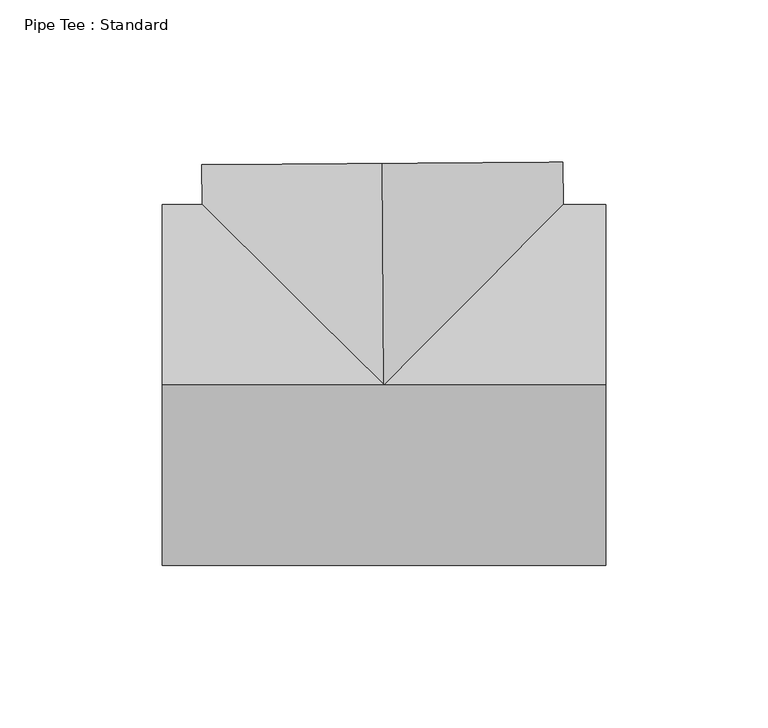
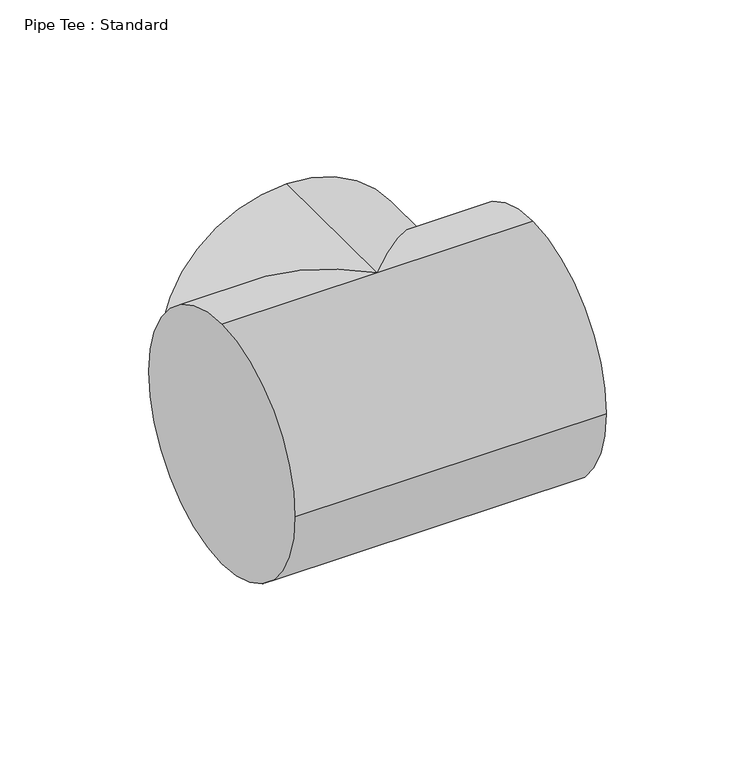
"""IFC4 building model written with IfcOpenShell, lengths in millimetres: pipe fitting geometry, Pipe Tee : Standard."""

from ifc_helpers import new_model, si_unit, frame, origin, place, context, project, spatial, circle_curve, ellipse_curve, source, transform, mapped, element, save
from ifc_brep_helpers import plane_surface, cylinder_surface, advanced_brep


def pipe_tee_standard_6d2680c1(model_context):
    return source(origin(), model_context, "Body", "AdvancedBrep", [
        advanced_brep(
        [(-68.2625, 0.0, 55.5625), (-68.2625, 55.5625, 0.0), (-68.2625, 0.0, -55.5625), (-68.2625, -55.5625, 0.0), (68.2625, 0.0, 55.5625), (68.2625, -55.5625, 0.0), (68.2625, 0.0, -55.5625), (68.2625, 55.5625, 0.0), (0.0, 0.0, 55.5625), (0.0, 0.0, -55.5625), (55.1629725, 55.5625, 0.0), (-55.9649211, 55.5625, 0.0), (-0.4926127, 68.2607225, 55.5625), (55.0684405, 68.6616864, 0.0), (-0.4926127, 68.2607225, -55.5625), (-56.0536659, 67.8597587, 0.0)],
        [
            (0, 1, circle_curve(frame((-68.2625, 0.0, 0.0), z_axis=(-1.0, 0.0, 0.0), x_axis=(0.0, -1.0, 0.0)), 55.5625)),
            (1, 2, circle_curve(frame((-68.2625, 0.0, 0.0), z_axis=(-1.0, 0.0, 0.0), x_axis=(0.0, -1.0, 0.0)), 55.5625)),
            (2, 3, circle_curve(frame((-68.2625, 0.0, 0.0), z_axis=(-1.0, 0.0, 0.0), x_axis=(0.0, -1.0, 0.0)), 55.5625)),
            (3, 0, circle_curve(frame((-68.2625, 0.0, 0.0), z_axis=(-1.0, 0.0, 0.0), x_axis=(0.0, -1.0, 0.0)), 55.5625)),
            (4, 5, circle_curve(frame((68.2625, 0.0, 0.0), z_axis=(1.0, 0.0, 0.0), x_axis=(0.0, -1.0, 0.0)), 55.5625)),
            (5, 6, circle_curve(frame((68.2625, 0.0, 0.0), z_axis=(1.0, 0.0, 0.0), x_axis=(0.0, -1.0, 0.0)), 55.5625)),
            (6, 7, circle_curve(frame((68.2625, 0.0, 0.0), z_axis=(1.0, 0.0, 0.0), x_axis=(0.0, -1.0, 0.0)), 55.5625)),
            (7, 4, circle_curve(frame((68.2625, 0.0, 0.0), z_axis=(1.0, 0.0, 0.0), x_axis=(0.0, -1.0, 0.0)), 55.5625)),
            (3, 5),
            (4, 8),
            (8, 0),
            (2, 9),
            (9, 6),
            (9, 10, ellipse_curve(frame((0.0, 0.0, 0.0), z_axis=(0.7096535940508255, -0.7045507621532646, 0.0), x_axis=(-0.7045507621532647, -0.7096535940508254, 0.0)), 78.2952422, 55.5625)),
            (10, 7),
            (1, 11),
            (11, 9, ellipse_curve(frame((0.0, 0.0, 0.0), z_axis=(-0.7045507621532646, -0.7096535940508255, 0.0), x_axis=(-0.7096535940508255, 0.7045507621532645, 0.0)), 78.8623091, 55.5625)),
            (8, 11, ellipse_curve(frame((0.0, 0.0, 0.0), z_axis=(-0.7045507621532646, -0.7096535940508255, 0.0), x_axis=(-0.7096535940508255, 0.7045507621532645, 0.0)), 78.8623091, 55.5625)),
            (10, 8, ellipse_curve(frame((0.0, 0.0, 0.0), z_axis=(0.7096535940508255, -0.7045507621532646, 0.0), x_axis=(-0.7045507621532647, -0.7096535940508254, 0.0)), 78.2952422, 55.5625)),
            (12, 13, circle_curve(frame((-0.4926127, 68.2607225, 0.0), z_axis=(-0.007216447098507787, 0.9999739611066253, 0.0), x_axis=(0.9999739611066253, 0.007216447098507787, 0.0)), 55.5625)),
            (13, 14, circle_curve(frame((-0.4926127, 68.2607225, 0.0), z_axis=(-0.007216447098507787, 0.9999739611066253, 0.0), x_axis=(0.9999739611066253, 0.007216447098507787, 0.0)), 55.5625)),
            (14, 15, circle_curve(frame((-0.4926127, 68.2607225, 0.0), z_axis=(-0.007216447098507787, 0.9999739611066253, 0.0), x_axis=(0.9999739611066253, 0.007216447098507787, 0.0)), 55.5625)),
            (15, 12, circle_curve(frame((-0.4926127, 68.2607225, 0.0), z_axis=(-0.007216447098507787, 0.9999739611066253, 0.0), x_axis=(0.9999739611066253, 0.007216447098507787, 0.0)), 55.5625)),
            (12, 8),
            (10, 13),
            (9, 14),
            (11, 15),
        ],
        [
            plane_surface(frame((-68.2625, 0.0, 0.0), z_axis=(-1.0, 0.0, 0.0), x_axis=(0.0, 0.0, 1.0))),
            plane_surface(frame((68.2625, 0.0, 0.0), z_axis=(1.0, 0.0, 0.0), x_axis=(0.0, 0.0, 1.0))),
            cylinder_surface(frame((-68.2625, 0.0, 0.0), z_axis=(-1.0, 0.0, 0.0), x_axis=(0.0, -1.0, 0.0)), 55.5625),
            plane_surface(frame((-0.4926127, 68.2607225, 0.0), z_axis=(-0.007216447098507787, 0.9999739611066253, 0.0), x_axis=(0.0, 0.0, 1.0))),
            cylinder_surface(frame((0.0, 0.0, 0.0), z_axis=(0.007216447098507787, -0.9999739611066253, 0.0), x_axis=(0.9999739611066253, 0.007216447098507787, 0.0)), 55.5625),
        ],
        [
            (0, [[1, 2, 3, 4]]),
            (1, [[5, 6, 7, 8]]),
            (2, [[9, -5, 10, 11, -4]]),
            (2, [[12, 13, -6, -9, -3]]),
            (2, [[-13, 14, 15, -7]]),
            (2, [[16, 17, -12, -2]]),
            (2, [[-11, 18, -16, -1]]),
            (2, [[-15, 19, -10, -8]]),
            (3, [[20, 21, 22, 23]]),
            (4, [[24, -19, 25, -20]]),
            (4, [[-25, -14, 26, -21]]),
            (4, [[-26, -17, 27, -22]]),
            (4, [[-27, -18, -24, -23]]),
        ],
    ),
        advanced_brep(
        [(-68.2625, 0.0, 55.5625), (-68.2625, 55.5625, 0.0), (-68.2625, 0.0, -55.5625), (-68.2625, -55.5625, 0.0), (68.2625, 0.0, 55.5625), (68.2625, -55.5625, 0.0), (68.2625, 0.0, -55.5625), (68.2625, 55.5625, 0.0), (0.0, 0.0, 55.5625), (0.0, 0.0, -55.5625), (55.1629725, 55.5625, 0.0), (-55.9649211, 55.5625, 0.0), (-0.4926127, 68.2607225, 55.5625), (55.0684405, 68.6616864, 0.0), (-0.4926127, 68.2607225, -55.5625), (-56.0536659, 67.8597587, 0.0)],
        [
            (0, 1, circle_curve(frame((-68.2625, 0.0, 0.0), z_axis=(-1.0, 0.0, 0.0), x_axis=(0.0, -1.0, 0.0)), 55.5625)),
            (1, 2, circle_curve(frame((-68.2625, 0.0, 0.0), z_axis=(-1.0, 0.0, 0.0), x_axis=(0.0, -1.0, 0.0)), 55.5625)),
            (2, 3, circle_curve(frame((-68.2625, 0.0, 0.0), z_axis=(-1.0, 0.0, 0.0), x_axis=(0.0, -1.0, 0.0)), 55.5625)),
            (3, 0, circle_curve(frame((-68.2625, 0.0, 0.0), z_axis=(-1.0, 0.0, 0.0), x_axis=(0.0, -1.0, 0.0)), 55.5625)),
            (4, 5, circle_curve(frame((68.2625, 0.0, 0.0), z_axis=(1.0, 0.0, 0.0), x_axis=(0.0, -1.0, 0.0)), 55.5625)),
            (5, 6, circle_curve(frame((68.2625, 0.0, 0.0), z_axis=(1.0, 0.0, 0.0), x_axis=(0.0, -1.0, 0.0)), 55.5625)),
            (6, 7, circle_curve(frame((68.2625, 0.0, 0.0), z_axis=(1.0, 0.0, 0.0), x_axis=(0.0, -1.0, 0.0)), 55.5625)),
            (7, 4, circle_curve(frame((68.2625, 0.0, 0.0), z_axis=(1.0, 0.0, 0.0), x_axis=(0.0, -1.0, 0.0)), 55.5625)),
            (3, 5),
            (4, 8),
            (8, 0),
            (2, 9),
            (9, 6),
            (9, 10, ellipse_curve(frame((0.0, 0.0, 0.0), z_axis=(0.7096535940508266, -0.7045507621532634, 0.0), x_axis=(-0.7045507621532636, -0.7096535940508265, 0.0)), 78.2952422, 55.5625)),
            (10, 7),
            (1, 11),
            (11, 9, ellipse_curve(frame((0.0, 0.0, 0.0), z_axis=(-0.7045507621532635, -0.7096535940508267, 0.0), x_axis=(-0.7096535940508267, 0.7045507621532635, 0.0)), 78.8623091, 55.5625)),
            (8, 11, ellipse_curve(frame((0.0, 0.0, 0.0), z_axis=(-0.7045507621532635, -0.7096535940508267, 0.0), x_axis=(-0.7096535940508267, 0.7045507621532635, 0.0)), 78.8623091, 55.5625)),
            (10, 8, ellipse_curve(frame((0.0, 0.0, 0.0), z_axis=(0.7096535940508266, -0.7045507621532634, 0.0), x_axis=(-0.7045507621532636, -0.7096535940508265, 0.0)), 78.2952422, 55.5625)),
            (12, 13, circle_curve(frame((-0.4926127, 68.2607225, 0.0), z_axis=(-0.007216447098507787, 0.9999739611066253, 0.0), x_axis=(0.9999739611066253, 0.007216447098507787, 0.0)), 55.5625)),
            (13, 14, circle_curve(frame((-0.4926127, 68.2607225, 0.0), z_axis=(-0.007216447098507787, 0.9999739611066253, 0.0), x_axis=(0.9999739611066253, 0.007216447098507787, 0.0)), 55.5625)),
            (14, 15, circle_curve(frame((-0.4926127, 68.2607225, 0.0), z_axis=(-0.007216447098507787, 0.9999739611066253, 0.0), x_axis=(0.9999739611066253, 0.007216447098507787, 0.0)), 55.5625)),
            (15, 12, circle_curve(frame((-0.4926127, 68.2607225, 0.0), z_axis=(-0.007216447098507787, 0.9999739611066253, 0.0), x_axis=(0.9999739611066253, 0.007216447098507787, 0.0)), 55.5625)),
            (12, 8),
            (10, 13),
            (9, 14),
            (11, 15),
        ],
        [
            plane_surface(frame((-68.2625, 0.0, 0.0), z_axis=(-1.0, 0.0, 0.0), x_axis=(0.0, 0.0, 1.0))),
            plane_surface(frame((68.2625, 0.0, 0.0), z_axis=(1.0, 0.0, 0.0), x_axis=(0.0, 0.0, 1.0))),
            cylinder_surface(frame((-68.2625, 0.0, 0.0), z_axis=(-1.0, 0.0, 0.0), x_axis=(0.0, -1.0, 0.0)), 55.5625),
            plane_surface(frame((-0.4926127, 68.2607225, 0.0), z_axis=(-0.007216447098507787, 0.9999739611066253, 0.0), x_axis=(0.0, 0.0, 1.0))),
            cylinder_surface(frame((0.0, 0.0, 0.0), z_axis=(0.007216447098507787, -0.9999739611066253, 0.0), x_axis=(0.9999739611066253, 0.007216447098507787, 0.0)), 55.5625),
        ],
        [
            (0, [[1, 2, 3, 4]]),
            (1, [[5, 6, 7, 8]]),
            (2, [[9, -5, 10, 11, -4]]),
            (2, [[12, 13, -6, -9, -3]]),
            (2, [[-13, 14, 15, -7]]),
            (2, [[16, 17, -12, -2]]),
            (2, [[-11, 18, -16, -1]]),
            (2, [[-15, 19, -10, -8]]),
            (3, [[20, 21, 22, 23]]),
            (4, [[24, -19, 25, -20]]),
            (4, [[-25, -14, 26, -21]]),
            (4, [[-26, -17, 27, -22]]),
            (4, [[-27, -18, -24, -23]]),
        ],
    ),
    ])


if __name__ == "__main__":
    model = new_model("IFC4")
    model_context = context("Model", 3, world=origin())
    ifc_project = project(units=[si_unit("LENGTHUNIT", "METRE", prefix="MILLI")], contexts=[model_context])
    site = spatial("IfcSite", under=ifc_project)
    building = spatial("IfcBuilding", under=site)
    placement = place(None, origin())
    pipe_tee_standard_shape = pipe_tee_standard_6d2680c1(model_context)
    element("IfcPipeFitting", 1, ObjectType="Pipe Tee : Standard", at=placement, inside=building, context=model_context, shape_type="MappedRepresentation", body=[
        mapped(pipe_tee_standard_shape, transform((0.0, 0.0, 0.0), x_axis=(1.0, 0.0, 0.0), y_axis=(0.0, 1.0, 0.0), z_axis=(0.0, 0.0, 1.0))),
    ])
    save(model, "model.ifc")
